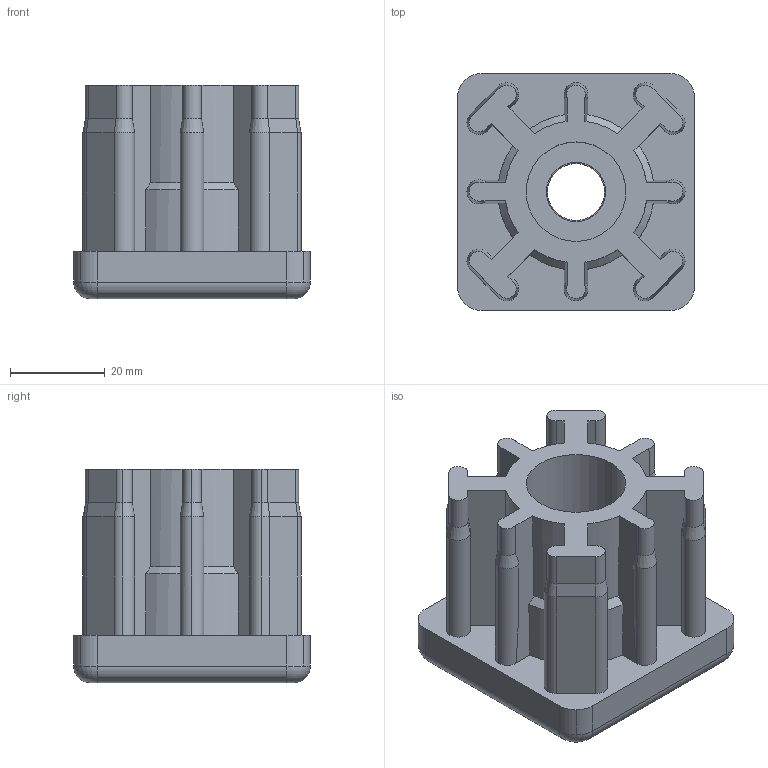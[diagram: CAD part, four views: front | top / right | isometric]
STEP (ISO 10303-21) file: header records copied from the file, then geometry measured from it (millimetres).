
FILE_DESCRIPTION (( 'STEP AP214' ), '1' );
FILE_NAME ('42006850312.STEP', '2020-02-26T11:15:48', ( '' ), ( '' ), 'SwSTEP 2.0', 'SolidWorks 2018', '' );
FILE_SCHEMA (( 'AUTOMOTIVE_DESIGN' ));
Length unit declared in the file: millimetre
Products named in the file (4): Component2.stp; BC_M12.stp; 42006850312; 42006850312.stp
Assembly tree (3 placements, depth 3):
  42006850312
    42006850312.stp
      Component2.stp
      BC_M12.stp
Bounding box: 50 x 50 x 45 mm (x, y, z)
Volume: 58551.3 mm3; surface area: 19891.6 mm2
Topology: 2 solids, 2 shells, 213 faces, 536 edges, 330 vertices
Faces by surface type: cylinder 96, plane 71, cone 40, torus 6
Entity records: 6622 total; most frequent: CARTESIAN_POINT 1270, DIRECTION 1184, ORIENTED_EDGE 1072, EDGE_CURVE 536, AXIS2_PLACEMENT_3D 460, VERTEX_POINT 330, LINE 264, VECTOR 264
